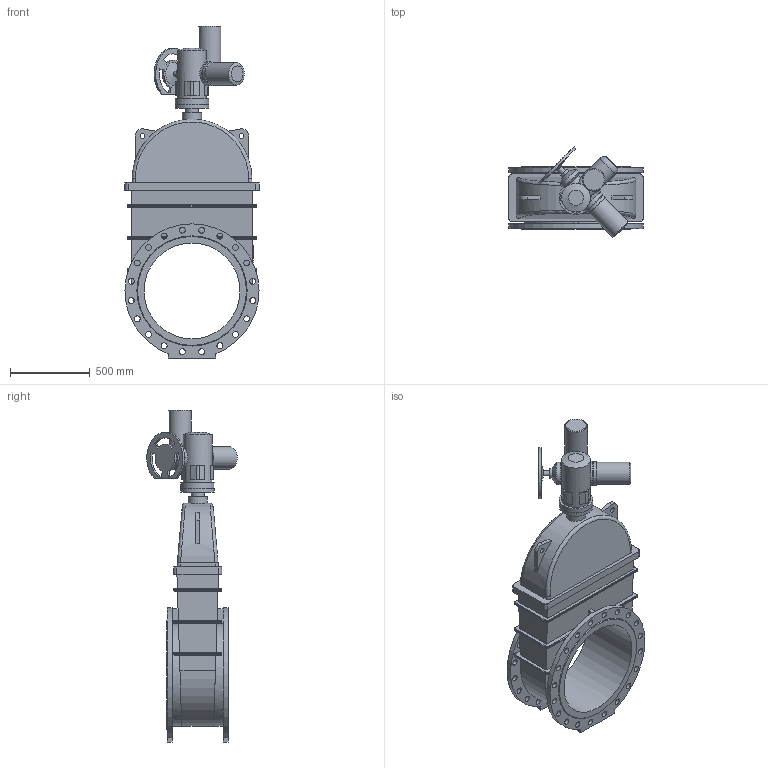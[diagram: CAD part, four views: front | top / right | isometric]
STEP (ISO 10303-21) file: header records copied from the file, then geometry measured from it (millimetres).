
FILE_DESCRIPTION(('STEP AP203'), '1');
FILE_NAME('青溻桄赅 47GVA.Z DN600 PN16+MT903.A45', '', ('UNSPECIFIED'), ('UNSPECIFIED'), 'ASCON STEP Converter 1.6', 'ASCON Math Kernel', '');
FILE_SCHEMA(('CONFIG_CONTROL_DESIGN'));
Length unit declared in the file: millimetre
Bounding box: 840 x 565.84 x 2079 mm (x, y, z)
Volume: 206374020.4 mm3; surface area: 5570065.4 mm2
Topology: 2 solids, 3 shells, 357 faces, 892 edges, 569 vertices
Faces by surface type: cylinder 161, plane 154, bspline 26, cone 15, torus 1
Full cylindrical faces by diameter (mm): 14 x4, 17 x4, 17.294 x4, 22 x4, 30 x2, 32 x1, 37 x40, 40 x1, 60 x1, 80 x1, 100 x1, 120 x1, 130 x2, 140 x4, 147 x1, 151 x1, 180 x1, 210 x2, 600 x1
Entity records: 16986 total; most frequent: CARTESIAN_POINT 5863, DIRECTION 1660, ORIENTED_EDGE 1594, EDGE_CURVE 797, AXIS2_PLACEMENT_3D 643, EDGE_LOOP 576, VERTEX_POINT 565, FACE_BOUND 410
